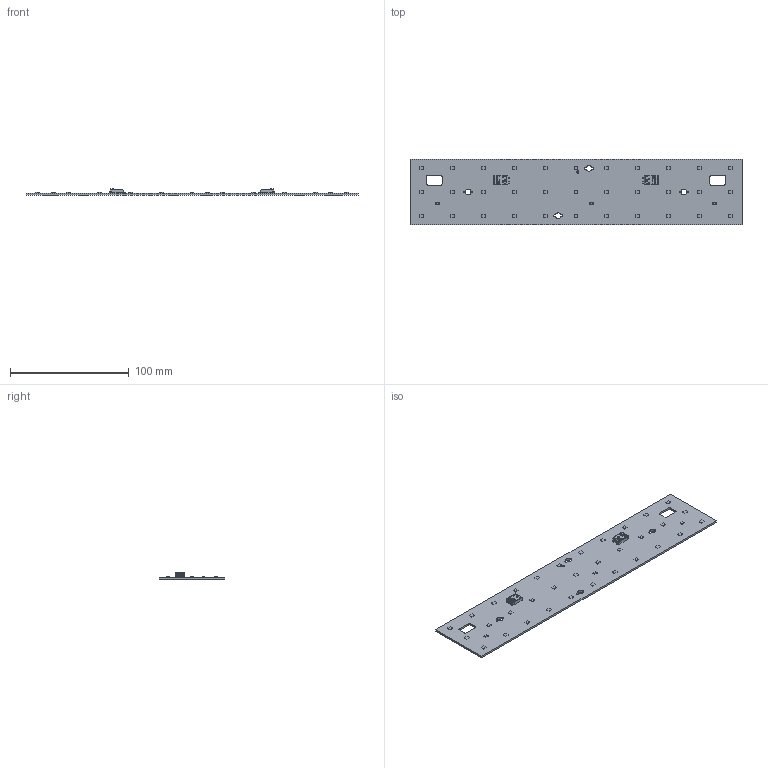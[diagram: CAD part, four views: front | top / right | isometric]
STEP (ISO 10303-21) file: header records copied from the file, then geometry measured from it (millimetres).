
FILE_DESCRIPTION((''),'2;1');
FILE_NAME('16208820_LLE-G5-55X280-2000LM','2019-01-16T08:23:36',('bernhard.fink'),(''),'CREO PARAMETRIC BY PTC INC, 2017380','CREO PARAMETRIC BY PTC INC, 2017380','');
FILE_SCHEMA(('AUTOMOTIVE_DESIGN { 1 0 10303 214 1 1 1 1 }'));
Products named in the file (1): 16208820_LLE-G5-55X280-2000LM
Bounding box: 280 x 55 x 5.2 mm (x, y, z)
Volume: 25566.4 mm3; surface area: 33172.6 mm2
Topology: 39 solids, 39 shells, 1305 faces, 3246 edges, 2003 vertices
Faces by surface type: plane 633, cylinder 336, bspline 210, cone 60, sphere 38, torus 28
Entity records: 65455 total; most frequent: CARTESIAN_POINT 17187, ORIENTED_EDGE 6412, DIRECTION 5144, PRESENTATION_STYLE_ASSIGNMENT 4550, STYLED_ITEM 3245, CURVE_STYLE 3206, EDGE_CURVE 3206, VERTEX_POINT 2000
